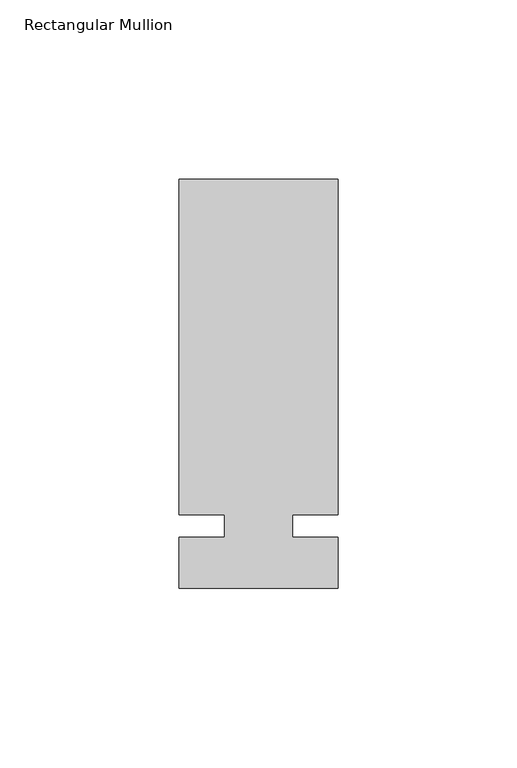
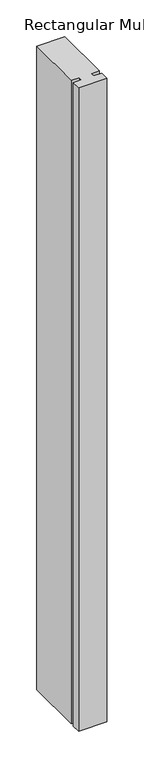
"""IFC4 building model written with IfcOpenShell, lengths in millimetres: member geometry, Rectangular Mullion : Kawneer-TRIFAB_VG_450_BACK_SB_Horizontal."""

from ifc_helpers import new_model, si_unit, frame, origin, place, context, project, spatial, polyline, outline, extrude, source, transform, mapped, element, save


def rectangular_mullion_731fc383(model_context):
    return source(origin(), model_context, "Body", "SweptSolid", [
        extrude(outline(polyline([(26.5594027, -17.4625), (-17.8905973, -17.4625), (-17.8905973, -3.2050658), (-5.1905973, -3.2050658), (-5.1905973, 3.1449342), (-17.8905973, 3.1449342), (-17.8905973, 96.8375), (26.5594027, 96.8375), (26.5594027, 3.1449342), (13.8576322, 3.1449342), (13.8576322, -3.2050658), (26.5594027, -3.2050658), (26.5594027, -17.4625)])), frame((0.0, 0.0, -1070.7844133), z_axis=(0.0, 0.0, 1.0), x_axis=(1.0, 0.0, 0.0)), (0.0, 0.0, 1.0), 1070.7844133),
    ])


if __name__ == "__main__":
    model = new_model("IFC4")
    model_context = context("Model", 3, world=origin())
    ifc_project = project(units=[si_unit("LENGTHUNIT", "METRE", prefix="MILLI")], contexts=[model_context])
    site = spatial("IfcSite", under=ifc_project)
    building = spatial("IfcBuilding", under=site)
    placement = place(None, origin())
    rectangular_mullion_shape = rectangular_mullion_731fc383(model_context)
    element("IfcMember", 1, ObjectType="Rectangular Mullion : Kawneer-TRIFAB_VG_450_BACK_SB_Horizontal", at=placement, inside=building, context=model_context, shape_type="MappedRepresentation", body=[
        mapped(rectangular_mullion_shape, transform((0.0, 0.0, 0.0), x_axis=(1.0, 0.0, 0.0), y_axis=(0.0, 1.0, 0.0), z_axis=(0.0, 0.0, 1.0))),
    ])
    save(model, "model.ifc")
